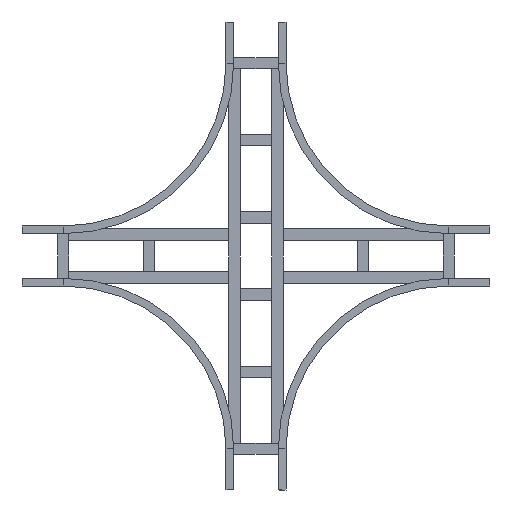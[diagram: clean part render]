
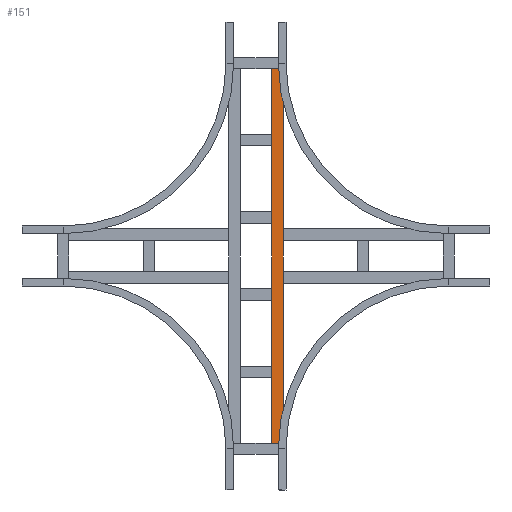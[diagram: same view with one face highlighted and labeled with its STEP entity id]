
A CAD part, front view. The second image highlights one B-rep face of the part: STEP entity #151.
In plain terms, the highlighted planar face has unit normal (0, -1, 0).
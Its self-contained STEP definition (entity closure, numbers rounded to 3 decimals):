
#10 = EDGE_CURVE ( 'NONE', #143, #259, #2166, .T. ) ;
#90 = LINE ( 'NONE', #2395, #1048 ) ;
#143 = VERTEX_POINT ( 'NONE', #1603 ) ;
#151 = ADVANCED_FACE ( 'NONE', ( #2668 ), #566, .F. ) ;
#243 = CARTESIAN_POINT ( 'NONE',  ( -679.75, 0., 20.25 ) ) ;
#259 = VERTEX_POINT ( 'NONE', #2093 ) ;
#272 = CARTESIAN_POINT ( 'NONE',  ( 679.75, 0., 20.25 ) ) ;
#310 = ORIENTED_EDGE ( 'NONE', *, *, #382, .F. ) ;
#373 = AXIS2_PLACEMENT_3D ( 'NONE', #1394, #983, #2011 ) ;
#382 = EDGE_CURVE ( 'NONE', #259, #1396, #90, .T. ) ;
#444 = DIRECTION ( 'NONE',  ( 0., 0., -1. ) ) ;
#566 = PLANE ( 'NONE',  #373 ) ;
#983 = DIRECTION ( 'NONE',  ( 0., 1., 0. ) ) ;
#1016 = CARTESIAN_POINT ( 'NONE',  ( -679.75, 0., -20.25 ) ) ;
#1048 = VECTOR ( 'NONE', #1360, 1000. ) ;
#1282 = ORIENTED_EDGE ( 'NONE', *, *, #10, .F. ) ;
#1360 = DIRECTION ( 'NONE',  ( -1., 0., 0. ) ) ;
#1375 = ORIENTED_EDGE ( 'NONE', *, *, #2442, .T. ) ;
#1394 = CARTESIAN_POINT ( 'NONE',  ( 679.75, 0., 20.25 ) ) ;
#1396 = VERTEX_POINT ( 'NONE', #1016 ) ;
#1397 = VERTEX_POINT ( 'NONE', #1847 ) ;
#1429 = CARTESIAN_POINT ( 'NONE',  ( 679.75, 0., 20.25 ) ) ;
#1603 = CARTESIAN_POINT ( 'NONE',  ( 679.75, 0., 20.25 ) ) ;
#1637 = LINE ( 'NONE', #1429, #2063 ) ;
#1753 = VECTOR ( 'NONE', #444, 1000. ) ;
#1847 = CARTESIAN_POINT ( 'NONE',  ( -679.75, 0., 20.25 ) ) ;
#1938 = ORIENTED_EDGE ( 'NONE', *, *, #2223, .T. ) ;
#2011 = DIRECTION ( 'NONE',  ( 0., 0., 1. ) ) ;
#2063 = VECTOR ( 'NONE', #2689, 1000. ) ;
#2093 = CARTESIAN_POINT ( 'NONE',  ( 679.75, 0., -20.25 ) ) ;
#2166 = LINE ( 'NONE', #272, #2482 ) ;
#2206 = DIRECTION ( 'NONE',  ( 0., 0., -1. ) ) ;
#2223 = EDGE_CURVE ( 'NONE', #1397, #1396, #2507, .T. ) ;
#2395 = CARTESIAN_POINT ( 'NONE',  ( 679.75, 0., -20.25 ) ) ;
#2442 = EDGE_CURVE ( 'NONE', #143, #1397, #1637, .T. ) ;
#2482 = VECTOR ( 'NONE', #2206, 1000. ) ;
#2507 = LINE ( 'NONE', #243, #1753 ) ;
#2528 = EDGE_LOOP ( 'NONE', ( #1938, #310, #1282, #1375 ) ) ;
#2668 = FACE_OUTER_BOUND ( 'NONE', #2528, .T. ) ;
#2689 = DIRECTION ( 'NONE',  ( -1., 0., 0. ) ) ;
